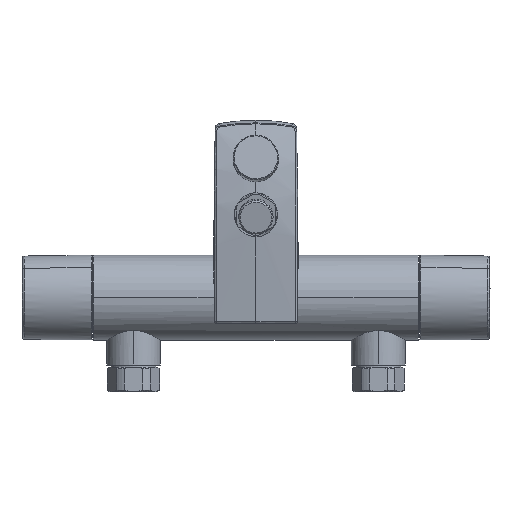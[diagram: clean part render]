
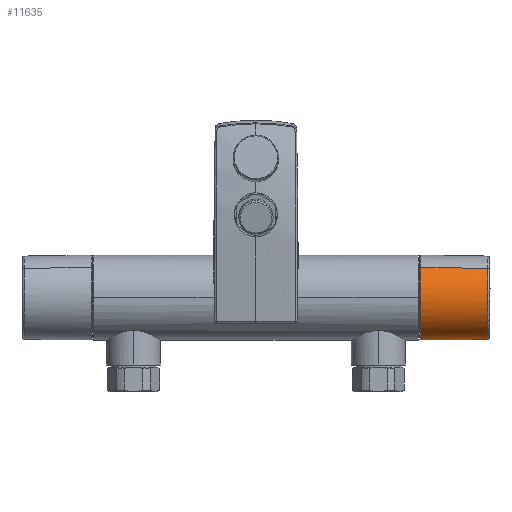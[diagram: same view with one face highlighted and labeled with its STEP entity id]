
A CAD part, front view. The second image highlights one B-rep face of the part: STEP entity #11635.
In plain terms, the highlighted toroidal (fillet/blend) face has major radius 10223.5 mm and minor radius 10250 mm.
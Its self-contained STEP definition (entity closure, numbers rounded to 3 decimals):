
#62 = DIRECTION ( 'NONE',  ( 0., 0.707, -0.707 ) ) ;
#250 = CARTESIAN_POINT ( 'NONE',  ( 142.051, 0.365, 41.597 ) ) ;
#867 = DIRECTION ( 'NONE',  ( 0., -0.707, 0.707 ) ) ;
#983 = VERTEX_POINT ( 'NONE', #2361 ) ;
#1340 = DIRECTION ( 'NONE',  ( 0., -0.707, 0.707 ) ) ;
#2090 = CARTESIAN_POINT ( 'NONE',  ( 1.17, 0.365, 41.597 ) ) ;
#2361 = CARTESIAN_POINT ( 'NONE',  ( 142.051, 18.405, 23.557 ) ) ;
#3136 = DIRECTION ( 'NONE',  ( 1., 0., 0. ) ) ;
#3357 = VERTEX_POINT ( 'NONE', #5922 ) ;
#3415 = CIRCLE ( 'NONE', #4103, 25.995 ) ;
#3518 = ORIENTED_EDGE ( 'NONE', *, *, #5274, .T. ) ;
#3567 = CIRCLE ( 'NONE', #4959, 25.513 ) ;
#4103 = AXIS2_PLACEMENT_3D ( 'NONE', #9691, #3136, #10781 ) ;
#4219 = ORIENTED_EDGE ( 'NONE', *, *, #10387, .F. ) ;
#4634 = AXIS2_PLACEMENT_3D ( 'NONE', #13898, #7403, #867 ) ;
#4959 = AXIS2_PLACEMENT_3D ( 'NONE', #250, #7887, #1340 ) ;
#5274 = EDGE_CURVE ( 'NONE', #3357, #11389, #3415, .T. ) ;
#5389 = CARTESIAN_POINT ( 'NONE',  ( 142.051, -17.676, 59.638 ) ) ;
#5728 = EDGE_CURVE ( 'NONE', #11389, #983, #9072, .T. ) ;
#5922 = CARTESIAN_POINT ( 'NONE',  ( 101.005, -18.017, 59.978 ) ) ;
#6496 = DIRECTION ( 'NONE',  ( 0., 0.707, -0.707 ) ) ;
#6620 = DIRECTION ( 'NONE',  ( 0., -0.707, -0.707 ) ) ;
#6743 = EDGE_CURVE ( 'NONE', #983, #11641, #3567, .T. ) ;
#6801 = AXIS2_PLACEMENT_3D ( 'NONE', #13119, #6620, #62 ) ;
#7403 = DIRECTION ( 'NONE',  ( 0., 0.707, 0.707 ) ) ;
#7629 = TOROIDAL_SURFACE ( 'NONE', #10508, -10223.519, 10250. ) ;
#7887 = DIRECTION ( 'NONE',  ( -1., 0., 0. ) ) ;
#8334 = FACE_OUTER_BOUND ( 'NONE', #13111, .T. ) ;
#9035 = ORIENTED_EDGE ( 'NONE', *, *, #6743, .T. ) ;
#9072 = CIRCLE ( 'NONE', #6801, 10250. ) ;
#9691 = CARTESIAN_POINT ( 'NONE',  ( 101.005, 0.365, 41.597 ) ) ;
#9933 = CARTESIAN_POINT ( 'NONE',  ( 101.005, 18.746, 23.216 ) ) ;
#10387 = EDGE_CURVE ( 'NONE', #3357, #11641, #10392, .T. ) ;
#10392 = CIRCLE ( 'NONE', #4634, 10250. ) ;
#10508 = AXIS2_PLACEMENT_3D ( 'NONE', #2090, #12997, #6496 ) ;
#10781 = DIRECTION ( 'NONE',  ( 0., -0.707, 0.707 ) ) ;
#10895 = ORIENTED_EDGE ( 'NONE', *, *, #5728, .T. ) ;
#11389 = VERTEX_POINT ( 'NONE', #9933 ) ;
#11635 = ADVANCED_FACE ( 'NONE', ( #8334 ), #7629, .T. ) ;
#11641 = VERTEX_POINT ( 'NONE', #5389 ) ;
#12997 = DIRECTION ( 'NONE',  ( 1., 0., 0. ) ) ;
#13111 = EDGE_LOOP ( 'NONE', ( #4219, #3518, #10895, #9035 ) ) ;
#13119 = CARTESIAN_POINT ( 'NONE',  ( 1.17, -7228.755, 7270.716 ) ) ;
#13898 = CARTESIAN_POINT ( 'NONE',  ( 1.17, 7229.484, -7187.522 ) ) ;
